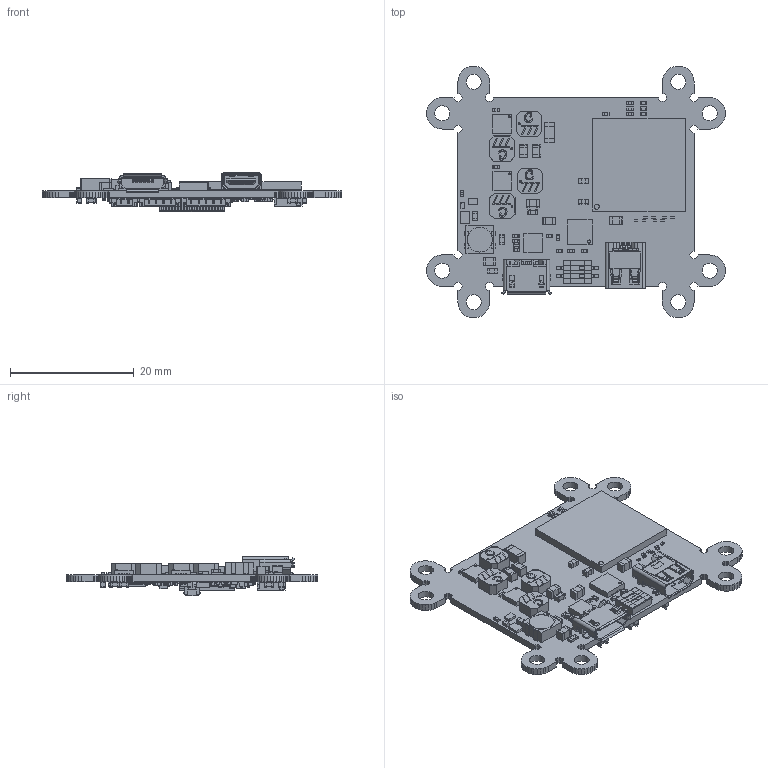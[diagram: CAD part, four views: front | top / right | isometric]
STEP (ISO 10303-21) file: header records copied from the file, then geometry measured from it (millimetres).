
FILE_DESCRIPTION(('Open CASCADE Model'),'2;1');
FILE_NAME('Open CASCADE Shape Model','2018-07-19T11:03:46',('Author'),( 'Open CASCADE'),'Open CASCADE STEP processor 6.5','Open CASCADE 6.5' ,'Unknown');
FILE_SCHEMA(('AUTOMOTIVE_DESIGN { 1 0 10303 214 1 1 1 1 }'));
Length unit declared in the file: millimetre
Products named in the file (403): PCB; Board; R2; 590398096; Extruded; 590398224; 590398480; 590399376; 590398352; R1; R54; U9; 590412304; 590403344; 590412176; 725588640; Cylinder; D4; 725589000; 590402448; R46; Q2; C24; 590411024; 590411152; R51; 704097248; R52; U4; 725588880; 704096864; 704096992; 590403600; 704097120; L12; 704096608; 590405776; C65; C64; 590410256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
Assembly tree (1190 placements, depth 4):
  PCB
    Board
    R2
      590398096
        Extruded
      590398224
        Extruded
      590398480  x2
        Extruded
      590399376  x2
        Extruded
      590398352  x2
        Extruded
    R1
      590398096
        Extruded
      590398224
        Extruded
      590398480  x2
        Extruded
      590399376  x2
        Extruded
      590398352  x2
        Extruded
    R54
      590398096
        Extruded
      590398224
        Extruded
      590398480  x2
        Extruded
      590399376  x2
        Extruded
      590398352  x2
        Extruded
    U9
      590412304
        Extruded
      590403344  x6
        Extruded
      590412176
        Extruded
      725588640
        Cylinder
    D4
      725589000
        Cylinder
      590402448
        Extruded
    R46
      590398480  x2
        Extruded
      590399376  x2
        Extruded
      590398352  x2
        Extruded
      590398224
        Extruded
      590398096
        Extruded
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Bounding box: 48.28 x 40.66 x 6.3 mm (x, y, z)
Volume: 2318.5 mm3; surface area: 6461.3 mm2
Topology: 910 solids, 910 shells, 9300 faces, 23268 edges, 16540 vertices
Faces by surface type: plane 8500, cylinder 670, sphere 74, bspline 36, cone 20
Full cylindrical faces by diameter (mm): 0.1 x3, 0.2 x2, 0.3 x2, 0.4 x3, 0.5 x1, 0.8 x1, 1 x1, 2.438 x8, 4 x1
Entity records: 340122 total; most frequent: CARTESIAN_POINT 74950, DIRECTION 47645, LINE 32850, VECTOR 32850, ORIENTED_EDGE 25134, PCURVE 25134, DEFINITIONAL_REPRESENTATION 25134, EDGE_CURVE 12567
